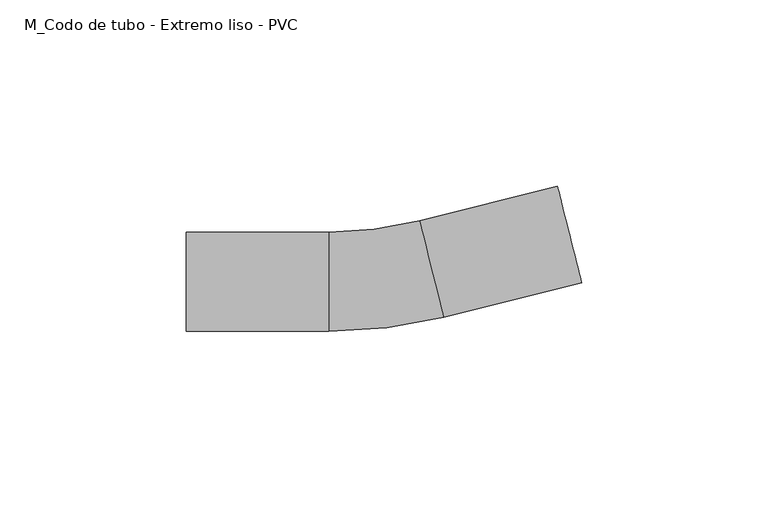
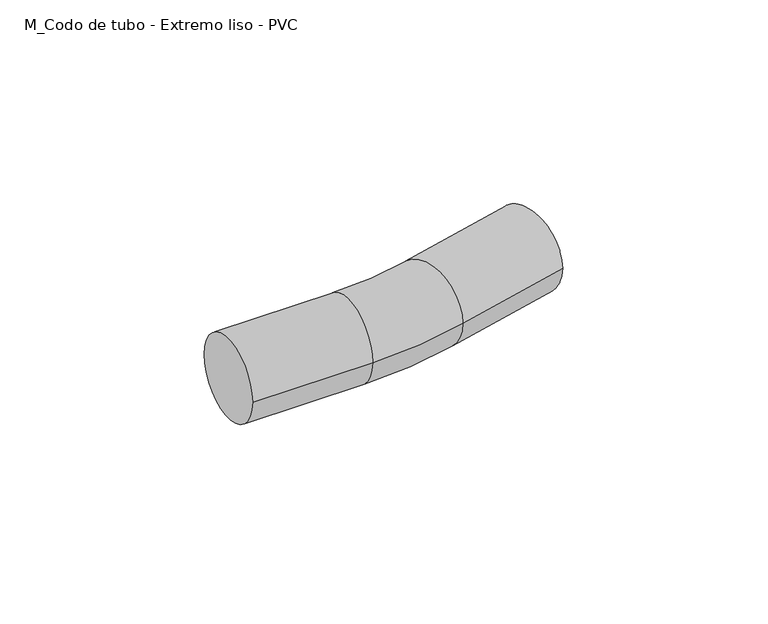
"""IFC4 building model written with IfcOpenShell, lengths in millimetres: cable carrier fitting geometry, M_Codo de tubo - Extremo liso - PVC : CODO POTENCIA."""

from ifc_helpers import new_model, si_unit, point, frame, origin, place, context, project, spatial, circle_curve, ellipse_curve, trimmed, source, transform, mapped, element, save
from ifc_brep_helpers import plane_surface, cylinder_surface, revolved_surface, advanced_brep


def m_codo_de_tubo_extremo_liso_pvc_ec2bc7bc(model_context):
    return source(origin(), model_context, "Body", "AdvancedBrep", [
        advanced_brep(
        [(-52.1342753, -13.335, 0.0), (-52.1342753, 13.335, 0.0), (-14.0342753, -13.335, 0.0), (-14.0342753, 13.335, 0.0), (10.3913689, 16.334092, 0.0), (16.8434258, -9.543695, 0.0), (53.811693, -0.3264708, 0.0), (47.359636, 25.5513162, 0.0)],
        [
            (0, 1, circle_curve(frame((-52.1342753, 0.0, 0.0), z_axis=(-1.0, 0.0, 0.0), x_axis=(0.0, 1.0, 0.0)), 13.335)),
            (1, 0, circle_curve(frame((-52.1342753, 0.0, 0.0), z_axis=(-1.0, 0.0, 0.0), x_axis=(0.0, 1.0, 0.0)), 13.335)),
            (0, 2),
            (2, 3, circle_curve(frame((-14.0342753, 0.0, 0.0), z_axis=(-1.0, 0.0, 0.0), x_axis=(0.0, 1.0, 0.0)), 13.335)),
            (3, 1),
            (3, 2, circle_curve(frame((-14.0342753, 0.0, 0.0), z_axis=(-1.0, 0.0, 0.0), x_axis=(0.0, 1.0, 0.0)), 13.335)),
            (4, 3, circle_curve(frame((-14.0342753, 114.3, 0.0), z_axis=(0.0, 0.0, -1.0), x_axis=(0.0, -1.0, 0.0)), 100.965)),
            (2, 5, circle_curve(frame((-14.0342753, 114.3, 0.0), z_axis=(0.0, 0.0, 1.0), x_axis=(0.0, -1.0, 0.0)), 127.635)),
            (5, 4, circle_curve(frame((13.6173974, 3.3951985, 0.0), z_axis=(-0.9702957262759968, -0.24192189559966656, 0.0), x_axis=(-0.24192189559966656, 0.9702957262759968, 0.0)), 13.335)),
            (4, 5, circle_curve(frame((13.6173974, 3.3951985, 0.0), z_axis=(-0.9702957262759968, -0.24192189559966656, 0.0), x_axis=(-0.24192189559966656, 0.9702957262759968, 0.0)), 13.335)),
            (6, 7, circle_curve(frame((50.5856645, 12.6124227, 0.0), z_axis=(0.9702957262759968, 0.2419218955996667, 0.0), x_axis=(-0.2419218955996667, 0.9702957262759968, 0.0)), 13.335)),
            (7, 6, circle_curve(frame((50.5856645, 12.6124227, 0.0), z_axis=(0.9702957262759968, 0.2419218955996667, 0.0), x_axis=(-0.2419218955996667, 0.9702957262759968, 0.0)), 13.335)),
            (5, 6),
            (7, 4),
        ],
        [
            plane_surface(frame((-52.1342753, 0.0, 0.0), z_axis=(-1.0, 0.0, 0.0), x_axis=(0.0, 0.0, 1.0))),
            cylinder_surface(frame((-52.1342753, 0.0, 0.0), z_axis=(-1.0, 0.0, 0.0), x_axis=(0.0, 1.0, 0.0)), 13.335),
            revolved_surface(trimmed(ellipse_curve(frame((-14.0342753, 0.0, 0.0), z_axis=(-1.0, 0.0, 0.0), x_axis=(0.0, 1.0, 0.0)), 13.335, 13.335), [point((-14.0342753, -13.335, 0.0))], [point((-14.0342753, 13.335, 0.0))], True, "CARTESIAN"), (-14.0342753, 114.3, 0.0), (0.0, 0.0, 1.0)),
            revolved_surface(trimmed(ellipse_curve(frame((-14.0342753, 0.0, 0.0), z_axis=(-1.0, 0.0, 0.0), x_axis=(0.0, 1.0, 0.0)), 13.335, 13.335), [point((-14.0342753, 13.335, 0.0))], [point((-14.0342753, -13.335, 0.0))], True, "CARTESIAN"), (-14.0342753, 114.3, 0.0), (0.0, 0.0, 1.0)),
            plane_surface(frame((50.5856645, 12.6124227, 0.0), z_axis=(0.9702957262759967, 0.2419218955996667, 0.0), x_axis=(0.0, 0.0, 1.0))),
            cylinder_surface(frame((13.6173974, 3.3951985, 0.0), z_axis=(-0.9702957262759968, -0.2419218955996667, 0.0), x_axis=(-0.2419218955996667, 0.9702957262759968, 0.0)), 13.335),
        ],
        [
            (0, [[1, 2]]),
            (1, [[-1, 3, 4, 5]]),
            (1, [[-2, -5, 6, -3]]),
            (2, [[7, -4, 8, 9]]),
            (3, [[-8, -6, -7, 10]]),
            (4, [[11, 12]]),
            (5, [[-9, 13, -12, 14]]),
            (5, [[-10, -14, -11, -13]]),
        ],
    ),
    ])


if __name__ == "__main__":
    model = new_model("IFC4")
    model_context = context("Model", 3, world=origin())
    ifc_project = project(units=[si_unit("LENGTHUNIT", "METRE", prefix="MILLI")], contexts=[model_context])
    site = spatial("IfcSite", under=ifc_project)
    building = spatial("IfcBuilding", under=site)
    placement = place(None, origin())
    m_codo_de_tubo_extremo_liso_pvc_shape = m_codo_de_tubo_extremo_liso_pvc_ec2bc7bc(model_context)
    element("IfcCableCarrierFitting", 1, ObjectType="M_Codo de tubo - Extremo liso - PVC : CODO POTENCIA", at=placement, inside=building, context=model_context, shape_type="MappedRepresentation", body=[
        mapped(m_codo_de_tubo_extremo_liso_pvc_shape, transform((0.0, 0.0, 0.0), x_axis=(1.0, 0.0, 0.0), y_axis=(0.0, 1.0, 0.0), z_axis=(0.0, 0.0, 1.0))),
    ])
    save(model, "model.ifc")
